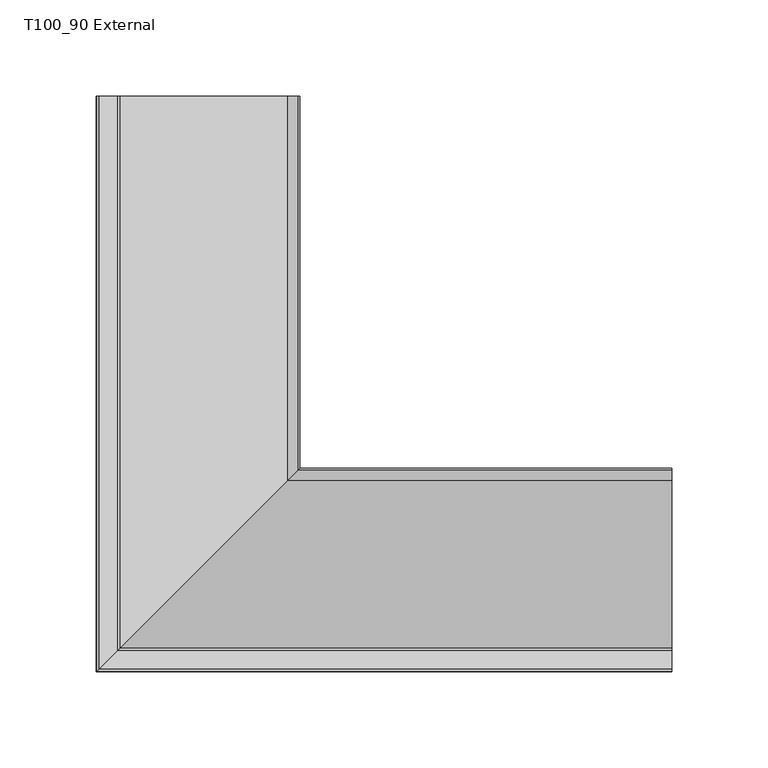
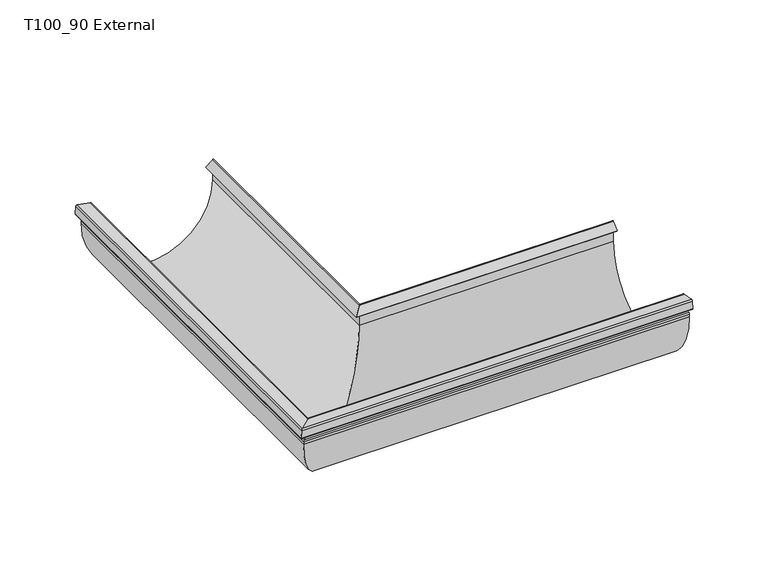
"""IFC4 building model written with IfcOpenShell, lengths in millimetres: proxy geometry, GROVIK_Gutter_Corner : T100_90 External."""

from ifc_helpers import new_model, si_unit, frame, origin, place, context, project, spatial, polyline, circle_curve, ellipse_curve, source, transform, mapped, element, save
from ifc_brep_helpers import plane_surface, cylinder_surface, revolved_surface, advanced_brep


def t100_90_external_0bfb932a(model_context):
    return source(origin(), model_context, "Body", "AdvancedBrep", [
        advanced_brep(
        [(-95.6785725, 193.8, -12.9222473), (-94.8220658, 193.8, -3.1323306), (-104.7816977, 193.8, -1.3761787), (-105.2998033, 193.8, -7.2981526), (-98.3413035, 193.8, -6.0711814), (-98.1850202, 193.8, -6.9575084), (-105.0151773, 193.8, -8.1618494), (-106.1850202, 193.8, -7.0898859), (-105.6885136, 193.8, -1.4147892), (-104.6051631, 193.8, -0.5057502), (-94.7570856, 193.8, -2.242232), (-93.9345391, 193.8, -3.3141955), (-94.7746841, 193.8, -12.9170968), (-95.683723, 193.8, -13.8261357), (-100.9, 193.8, -14.2825008), (-100.9, 193.8, -16.3578028), (-0.9, 193.8, -16.3578028), (-0.9, 193.8, -1.3578028), (-5.6494755, 193.8, -5.3430859), (-6.2279844, 193.8, -4.6536459), (-0.8213938, 193.8, -0.1169778), (0.0, 193.8, -0.5), (0.0, 193.8, -16.3578028), (-101.8, 193.8, -16.3578028), (-101.8, 193.8, -14.3741339), (-100.8871557, 193.8, -13.3779392), (-100.8871557, -100.8871557, -13.3779392), (-95.6785725, -95.6785725, -12.9222473), (-101.8, -101.8, -14.3741339), (-101.8, -101.8, -16.3578028), (0.0, 0.0, -16.3578028), (0.0, 0.0, -0.5), (-0.8213938, -0.8213938, -0.1169778), (-6.2279844, -6.2279844, -4.6536459), (-5.6494755, -5.6494755, -5.3430859), (-0.9, -0.9, -1.3578028), (-0.9, -0.9, -16.3578028), (-100.9, -100.9, -16.3578028), (-100.9, -100.9, -14.2825008), (-95.683723, -95.683723, -13.8261357), (-94.7746841, -94.7746841, -12.9170968), (-93.9345391, -93.9345391, -3.3141955), (-94.7570856, -94.7570856, -2.242232), (-104.6051631, -104.6051631, -0.5057502), (-105.6885136, -105.6885136, -1.4147892), (-106.1850202, -106.1850202, -7.0898859), (-105.0151773, -105.0151773, -8.1618494), (-98.1850202, -98.1850202, -6.9575084), (-98.3413035, -98.3413035, -6.0711814), (-105.2998033, -105.2998033, -7.2981526), (-104.7816977, -104.7816977, -1.3761787), (-94.8220658, -94.8220658, -3.1323306)],
        [
            (0, 1),
            (1, 2),
            (2, 3),
            (3, 4),
            (4, 5),
            (5, 6),
            (6, 7, circle_curve(frame((-105.1888255, 193.8, -7.1770416), z_axis=(0.0, 1.0, 0.0), x_axis=(1.0, 0.0, 0.0)), 1.0)),
            (7, 8),
            (8, 9, circle_curve(frame((-104.6923189, 193.8, -1.5019449), z_axis=(0.0, 1.0, 0.0), x_axis=(1.0, 0.0, 0.0)), 1.0)),
            (9, 10),
            (10, 11, circle_curve(frame((-94.9307338, 193.8, -3.2270397), z_axis=(0.0, 1.0, 0.0), x_axis=(1.0, 0.0, 0.0)), 1.0)),
            (11, 12),
            (12, 13, circle_curve(frame((-95.683723, 193.8, -12.9170968), z_axis=(0.0, 1.0, 0.0), x_axis=(1.0, 0.0, 0.0)), 0.909039)),
            (13, 14),
            (14, 15),
            (15, 16, circle_curve(frame((-50.9, 193.8, -16.3578028), z_axis=(0.0, -1.0, 0.0), x_axis=(1.0, 0.0, 0.0)), 50.0)),
            (16, 17),
            (17, 18),
            (18, 19),
            (19, 20),
            (20, 21, circle_curve(frame((-0.5, 193.8, -0.5), z_axis=(0.0, 1.0, 0.0), x_axis=(1.0, 0.0, 0.0)), 0.5)),
            (21, 22),
            (22, 23, circle_curve(frame((-50.9, 193.8, -16.3578028), z_axis=(0.0, 1.0, 0.0), x_axis=(1.0, 0.0, 0.0)), 50.9)),
            (23, 24),
            (24, 25, circle_curve(frame((-100.8, 193.8, -14.3741339), z_axis=(0.0, 1.0, 0.0), x_axis=(1.0, 0.0, 0.0)), 1.0)),
            (25, 0),
            (25, 26),
            (26, 27),
            (27, 0),
            (24, 28),
            (28, 26, ellipse_curve(frame((-100.8, -100.8, -14.3741339), z_axis=(-0.707106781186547, 0.7071067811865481, 0.0), x_axis=(0.7071067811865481, 0.7071067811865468, 0.0)), 1.4142136, 1.0)),
            (23, 29),
            (29, 28),
            (22, 30),
            (30, 29, ellipse_curve(frame((-50.9, -50.9, -16.3578028), z_axis=(-0.707106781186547, 0.7071067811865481, 0.0), x_axis=(0.7071067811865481, 0.7071067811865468, 0.0)), 71.9834703, 50.9)),
            (21, 31),
            (31, 30),
            (20, 32),
            (32, 31, ellipse_curve(frame((-0.5, -0.5, -0.5), z_axis=(-0.707106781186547, 0.7071067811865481, 0.0), x_axis=(0.7071067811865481, 0.7071067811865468, 0.0)), 0.7071068, 0.5)),
            (19, 33),
            (33, 32),
            (18, 34),
            (34, 33),
            (17, 35),
            (35, 34),
            (16, 36),
            (36, 35),
            (15, 37),
            (37, 36, ellipse_curve(frame((-50.9, -50.9, -16.3578028), z_axis=(0.707106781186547, -0.7071067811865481, 0.0), x_axis=(-0.7071067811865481, -0.7071067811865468, 0.0)), 70.7106781, 50.0)),
            (14, 38),
            (38, 37),
            (13, 39),
            (39, 38),
            (12, 40),
            (40, 39, ellipse_curve(frame((-95.683723, -95.683723, -12.9170968), z_axis=(-0.707106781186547, 0.7071067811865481, 0.0), x_axis=(0.7071067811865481, 0.7071067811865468, 0.0)), 1.2855752, 0.909039)),
            (11, 41),
            (41, 40),
            (10, 42),
            (42, 41, ellipse_curve(frame((-94.9307338, -94.9307338, -3.2270397), z_axis=(-0.707106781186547, 0.7071067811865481, 0.0), x_axis=(0.7071067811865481, 0.7071067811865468, 0.0)), 1.4142136, 1.0)),
            (9, 43),
            (43, 42),
            (8, 44),
            (44, 43, ellipse_curve(frame((-104.6923189, -104.6923189, -1.5019449), z_axis=(-0.707106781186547, 0.7071067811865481, 0.0), x_axis=(0.7071067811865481, 0.7071067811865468, 0.0)), 1.4142136, 1.0)),
            (7, 45),
            (45, 44),
            (6, 46),
            (46, 45, ellipse_curve(frame((-105.1888255, -105.1888255, -7.1770416), z_axis=(-0.707106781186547, 0.7071067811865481, 0.0), x_axis=(0.7071067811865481, 0.7071067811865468, 0.0)), 1.4142136, 1.0)),
            (5, 47),
            (47, 46),
            (4, 48),
            (48, 47),
            (3, 49),
            (49, 48),
            (2, 50),
            (50, 49),
            (1, 51),
            (51, 50),
            (27, 51),
        ],
        [
            plane_surface(frame((0.0, 193.8, 0.0), z_axis=(0.0, 1.0, 0.0), x_axis=(0.0, 0.0, 1.0))),
            plane_surface(frame((-95.6785725, 193.8, -12.9222473), z_axis=(-0.087155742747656, 0.0, 0.9961946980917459), x_axis=(0.0, -1.0, 0.0))),
            cylinder_surface(frame((-100.8, 193.8, -14.3741339), z_axis=(0.0, 1.0, 0.0), x_axis=(1.0, 0.0, 0.0)), 1.0),
            plane_surface(frame((-101.8, 193.8, -14.3741339), z_axis=(-1.0, 0.0, 0.0), x_axis=(0.0, -1.0, 0.0))),
            cylinder_surface(frame((-50.9, 193.8, -16.3578028), z_axis=(0.0, 1.0, 0.0), x_axis=(1.0, 0.0, 0.0)), 50.9),
            plane_surface(frame((0.0, 193.8, -16.3578028), z_axis=(1.0, 0.0, 0.0), x_axis=(0.0, -1.0, 0.0))),
            cylinder_surface(frame((-0.5, 193.8, -0.5), z_axis=(0.0, 1.0, 0.0), x_axis=(1.0, 0.0, 0.0)), 0.5),
            plane_surface(frame((-0.8213938, 193.8, -0.1169778), z_axis=(-0.6427876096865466, 0.0, 0.7660444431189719), x_axis=(0.0, -1.0, 0.0))),
            plane_surface(frame((-6.2279844, 193.8, -4.6536459), z_axis=(-0.7660444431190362, 0.0, -0.6427876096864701), x_axis=(0.0, -1.0, 0.0))),
            plane_surface(frame((-5.6494755, 193.8, -5.3430859), z_axis=(0.6427876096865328, 0.0, -0.7660444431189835), x_axis=(0.0, -1.0, 0.0))),
            plane_surface(frame((-0.9, 193.8, -1.3578028), z_axis=(-1.0, 0.0, 0.0), x_axis=(0.0, -1.0, 0.0))),
            revolved_surface(polyline([(-0.8999999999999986, -100.90000000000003, -16.3578028), (-0.8999999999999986, 193.8, -16.3578028)]), (-50.9, 193.8, -16.3578028), (0.0, -1.0, 0.0)),
            plane_surface(frame((-100.9, 193.8, -16.3578028), z_axis=(1.0, 0.0, 0.0), x_axis=(0.0, -1.0, 0.0))),
            plane_surface(frame((-100.9, 193.8, -14.2825008), z_axis=(0.08715574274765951, 0.0, -0.9961946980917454), x_axis=(0.0, -1.0, 0.0))),
            cylinder_surface(frame((-95.683723, 193.8, -12.9170968), z_axis=(0.0, 1.0, 0.0), x_axis=(1.0, 0.0, 0.0)), 0.909039),
            plane_surface(frame((-94.7746841, 193.8, -12.9170968), z_axis=(0.9961946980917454, 0.0, -0.08715574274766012), x_axis=(0.0, -1.0, 0.0))),
            cylinder_surface(frame((-94.9307338, 193.8, -3.2270397), z_axis=(0.0, 1.0, 0.0), x_axis=(1.0, 0.0, 0.0)), 1.0),
            plane_surface(frame((-94.7570856, 193.8, -2.242232), z_axis=(0.17364817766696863, 0.0, 0.9848077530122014), x_axis=(0.0, -1.0, 0.0))),
            cylinder_surface(frame((-104.6923189, 193.8, -1.5019449), z_axis=(0.0, 1.0, 0.0), x_axis=(1.0, 0.0, 0.0)), 1.0),
            plane_surface(frame((-105.6885136, 193.8, -1.4147892), z_axis=(-0.9961946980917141, 0.0, 0.08715574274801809), x_axis=(0.0, -1.0, 0.0))),
            cylinder_surface(frame((-105.1888255, 193.8, -7.1770416), z_axis=(0.0, 1.0, 0.0), x_axis=(1.0, 0.0, 0.0)), 1.0),
            plane_surface(frame((-105.0151773, 193.8, -8.1618494), z_axis=(0.17364817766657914, 0.0, -0.9848077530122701), x_axis=(0.0, -1.0, 0.0))),
            plane_surface(frame((-98.1850202, 193.8, -6.9575084), z_axis=(0.9848077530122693, 0.0, 0.17364817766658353), x_axis=(0.0, -1.0, 0.0))),
            plane_surface(frame((-98.3413035, 193.8, -6.0711814), z_axis=(-0.17364817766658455, 0.0, 0.9848077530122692), x_axis=(0.0, -1.0, 0.0))),
            plane_surface(frame((-105.2998033, 193.8, -7.2981526), z_axis=(0.9961946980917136, 0.0, -0.0871557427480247), x_axis=(0.0, -1.0, 0.0))),
            plane_surface(frame((-104.7816977, 193.8, -1.3761787), z_axis=(-0.17364817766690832, 0.0, -0.984807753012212), x_axis=(0.0, -1.0, 0.0))),
            plane_surface(frame((-94.8220658, 193.8, -3.1323306), z_axis=(-0.996194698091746, 0.0, 0.08715574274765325), x_axis=(0.0, -1.0, 0.0))),
            plane_surface(frame((-200.0, -200.0, 250.0), z_axis=(0.707106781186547, -0.7071067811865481, 0.0), x_axis=(0.0, 0.0, -1.0))),
        ],
        [
            (0, [[1, 2, 3, 4, 5, 6, 7, 8, 9, 10, 11, 12, 13, 14, 15, 16, 17, 18, 19, 20, 21, 22, 23, 24, 25, 26]]),
            (1, [[27, 28, 29, -26]]),
            (2, [[30, 31, -27, -25]]),
            (3, [[32, 33, -30, -24]]),
            (4, [[34, 35, -32, -23]]),
            (5, [[36, 37, -34, -22]]),
            (6, [[38, 39, -36, -21]]),
            (7, [[40, 41, -38, -20]]),
            (8, [[42, 43, -40, -19]]),
            (9, [[44, 45, -42, -18]]),
            (10, [[46, 47, -44, -17]]),
            (11, [[48, 49, -46, -16]]),
            (12, [[50, 51, -48, -15]]),
            (13, [[52, 53, -50, -14]]),
            (14, [[54, 55, -52, -13]]),
            (15, [[56, 57, -54, -12]]),
            (16, [[58, 59, -56, -11]]),
            (17, [[60, 61, -58, -10]]),
            (18, [[62, 63, -60, -9]]),
            (19, [[64, 65, -62, -8]]),
            (20, [[66, 67, -64, -7]]),
            (21, [[68, 69, -66, -6]]),
            (22, [[70, 71, -68, -5]]),
            (23, [[72, 73, -70, -4]]),
            (24, [[74, 75, -72, -3]]),
            (25, [[76, 77, -74, -2]]),
            (26, [[-29, 78, -76, -1]]),
            (27, [[-31, -33, -35, -37, -39, -41, -43, -45, -47, -49, -51, -53, -55, -57, -59, -61, -63, -65, -67, -69, -71, -73, -75, -77, -78, -28]]),
        ],
    ),
        advanced_brep(
        [(193.8, -95.6785725, -12.9222473), (193.8, -100.8871557, -13.3779392), (193.8, -101.8, -14.3741339), (193.8, -101.8, -16.3578028), (193.8, 0.0, -16.3578028), (193.8, 0.0, -0.5), (193.8, -0.8213938, -0.1169778), (193.8, -6.2279844, -4.6536459), (193.8, -5.6494755, -5.3430859), (193.8, -0.9, -1.3578028), (193.8, -0.9, -16.3578028), (193.8, -100.9, -16.3578028), (193.8, -100.9, -14.2825008), (193.8, -95.683723, -13.8261357), (193.8, -94.7746841, -12.9170968), (193.8, -93.9345391, -3.3141955), (193.8, -94.7570856, -2.242232), (193.8, -104.6051631, -0.5057502), (193.8, -105.6885136, -1.4147892), (193.8, -106.1850202, -7.0898859), (193.8, -105.0151773, -8.1618494), (193.8, -98.1850202, -6.9575084), (193.8, -98.3413035, -6.0711814), (193.8, -105.2998033, -7.2981526), (193.8, -104.7816977, -1.3761787), (193.8, -94.8220658, -3.1323306), (-95.6785725, -95.6785725, -12.9222473), (-100.8871557, -100.8871557, -13.3779392), (-101.8, -101.8, -14.3741339), (-101.8, -101.8, -16.3578028), (0.0, 0.0, -16.3578028), (0.0, 0.0, -0.5), (-0.8213938, -0.8213938, -0.1169778), (-6.2279844, -6.2279844, -4.6536459), (-5.6494755, -5.6494755, -5.3430859), (-0.9, -0.9, -1.3578028), (-0.9, -0.9, -16.3578028), (-100.9, -100.9, -16.3578028), (-100.9, -100.9, -14.2825008), (-95.683723, -95.683723, -13.8261357), (-94.7746841, -94.7746841, -12.9170968), (-93.9345391, -93.9345391, -3.3141955), (-94.7570856, -94.7570856, -2.242232), (-104.6051631, -104.6051631, -0.5057502), (-105.6885136, -105.6885136, -1.4147892), (-106.1850202, -106.1850202, -7.0898859), (-105.0151773, -105.0151773, -8.1618494), (-98.1850202, -98.1850202, -6.9575084), (-98.3413035, -98.3413035, -6.0711814), (-105.2998033, -105.2998033, -7.2981526), (-104.7816977, -104.7816977, -1.3761787), (-94.8220658, -94.8220658, -3.1323306)],
        [
            (0, 1),
            (1, 2, circle_curve(frame((193.8, -100.8, -14.3741339), z_axis=(1.0, 0.0, 0.0), x_axis=(0.0, 1.0, 0.0)), 1.0)),
            (2, 3),
            (3, 4, circle_curve(frame((193.8, -50.9, -16.3578028), z_axis=(1.0, 0.0, 0.0), x_axis=(0.0, 1.0, 0.0)), 50.9)),
            (4, 5),
            (5, 6, circle_curve(frame((193.8, -0.5, -0.5), z_axis=(1.0, 0.0, 0.0), x_axis=(0.0, 1.0, 0.0)), 0.5)),
            (6, 7),
            (7, 8),
            (8, 9),
            (9, 10),
            (10, 11, circle_curve(frame((193.8, -50.9, -16.3578028), z_axis=(-1.0, 0.0, 0.0), x_axis=(0.0, 1.0, 0.0)), 50.0)),
            (11, 12),
            (12, 13),
            (13, 14, circle_curve(frame((193.8, -95.683723, -12.9170968), z_axis=(1.0, 0.0, 0.0), x_axis=(0.0, 1.0, 0.0)), 0.909039)),
            (14, 15),
            (15, 16, circle_curve(frame((193.8, -94.9307338, -3.2270397), z_axis=(1.0, 0.0, 0.0), x_axis=(0.0, 1.0, 0.0)), 1.0)),
            (16, 17),
            (17, 18, circle_curve(frame((193.8, -104.6923189, -1.5019449), z_axis=(1.0, 0.0, 0.0), x_axis=(0.0, 1.0, 0.0)), 1.0)),
            (18, 19),
            (19, 20, circle_curve(frame((193.8, -105.1888255, -7.1770416), z_axis=(1.0, 0.0, 0.0), x_axis=(0.0, 1.0, 0.0)), 1.0)),
            (20, 21),
            (21, 22),
            (22, 23),
            (23, 24),
            (24, 25),
            (25, 0),
            (0, 26),
            (26, 27),
            (27, 1),
            (27, 28, ellipse_curve(frame((-100.8, -100.8, -14.3741339), z_axis=(0.707106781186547, -0.7071067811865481, 0.0), x_axis=(0.7071067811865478, 0.707106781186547, 0.0)), 1.4142136, 1.0)),
            (28, 2),
            (28, 29),
            (29, 3),
            (29, 30, ellipse_curve(frame((-50.9, -50.9, -16.3578028), z_axis=(0.707106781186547, -0.7071067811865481, 0.0), x_axis=(0.7071067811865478, 0.707106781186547, 0.0)), 71.9834703, 50.9)),
            (30, 4),
            (30, 31),
            (31, 5),
            (31, 32, ellipse_curve(frame((-0.5, -0.5, -0.5), z_axis=(0.707106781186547, -0.7071067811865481, 0.0), x_axis=(0.7071067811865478, 0.707106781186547, 0.0)), 0.7071068, 0.5)),
            (32, 6),
            (32, 33),
            (33, 7),
            (33, 34),
            (34, 8),
            (34, 35),
            (35, 9),
            (35, 36),
            (36, 10),
            (36, 37, ellipse_curve(frame((-50.9, -50.9, -16.3578028), z_axis=(-0.707106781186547, 0.7071067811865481, 0.0), x_axis=(-0.7071067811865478, -0.707106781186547, 0.0)), 70.7106781, 50.0)),
            (37, 11),
            (37, 38),
            (38, 12),
            (38, 39),
            (39, 13),
            (39, 40, ellipse_curve(frame((-95.683723, -95.683723, -12.9170968), z_axis=(0.707106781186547, -0.7071067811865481, 0.0), x_axis=(0.7071067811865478, 0.707106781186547, 0.0)), 1.2855752, 0.909039)),
            (40, 14),
            (40, 41),
            (41, 15),
            (41, 42, ellipse_curve(frame((-94.9307338, -94.9307338, -3.2270397), z_axis=(0.707106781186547, -0.7071067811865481, 0.0), x_axis=(0.7071067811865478, 0.707106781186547, 0.0)), 1.4142136, 1.0)),
            (42, 16),
            (42, 43),
            (43, 17),
            (43, 44, ellipse_curve(frame((-104.6923189, -104.6923189, -1.5019449), z_axis=(0.707106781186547, -0.7071067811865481, 0.0), x_axis=(0.7071067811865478, 0.707106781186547, 0.0)), 1.4142136, 1.0)),
            (44, 18),
            (44, 45),
            (45, 19),
            (45, 46, ellipse_curve(frame((-105.1888255, -105.1888255, -7.1770416), z_axis=(0.707106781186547, -0.7071067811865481, 0.0), x_axis=(0.7071067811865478, 0.707106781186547, 0.0)), 1.4142136, 1.0)),
            (46, 20),
            (46, 47),
            (47, 21),
            (47, 48),
            (48, 22),
            (48, 49),
            (49, 23),
            (49, 50),
            (50, 24),
            (50, 51),
            (51, 25),
            (51, 26),
        ],
        [
            plane_surface(frame((193.8, 0.0, 0.0), z_axis=(1.0, 0.0, 0.0), x_axis=(0.0, 0.0, 1.0))),
            plane_surface(frame((193.8, -95.6785725, -12.9222473), z_axis=(0.0, -0.087155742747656, 0.9961946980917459), x_axis=(-1.0, 0.0, 0.0))),
            cylinder_surface(frame((193.8, -100.8, -14.3741339), z_axis=(1.0, 0.0, 0.0), x_axis=(0.0, 1.0, 0.0)), 1.0),
            plane_surface(frame((193.8, -101.8, -14.3741339), z_axis=(0.0, -1.0, 0.0), x_axis=(-1.0, 0.0, 0.0))),
            cylinder_surface(frame((193.8, -50.9, -16.3578028), z_axis=(1.0, 0.0, 0.0), x_axis=(0.0, 1.0, 0.0)), 50.9),
            plane_surface(frame((193.8, 0.0, -16.3578028), z_axis=(0.0, 1.0, 0.0), x_axis=(-1.0, 0.0, 0.0))),
            cylinder_surface(frame((193.8, -0.5, -0.5), z_axis=(1.0, 0.0, 0.0), x_axis=(0.0, 1.0, 0.0)), 0.5),
            plane_surface(frame((193.8, -0.8213938, -0.1169778), z_axis=(0.0, -0.6427876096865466, 0.7660444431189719), x_axis=(-1.0, 0.0, 0.0))),
            plane_surface(frame((193.8, -6.2279844, -4.6536459), z_axis=(0.0, -0.7660444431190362, -0.6427876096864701), x_axis=(-1.0, 0.0, 0.0))),
            plane_surface(frame((193.8, -5.6494755, -5.3430859), z_axis=(0.0, 0.6427876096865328, -0.7660444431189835), x_axis=(-1.0, 0.0, 0.0))),
            plane_surface(frame((193.8, -0.9, -1.3578028), z_axis=(0.0, -1.0, 0.0), x_axis=(-1.0, 0.0, 0.0))),
            revolved_surface(polyline([(-100.90000000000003, -0.8999999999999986, -16.3578028), (193.8, -0.8999999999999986, -16.3578028)]), (193.8, -50.9, -16.3578028), (-1.0, 0.0, 0.0)),
            plane_surface(frame((193.8, -100.9, -16.3578028), z_axis=(0.0, 1.0, 0.0), x_axis=(-1.0, 0.0, 0.0))),
            plane_surface(frame((193.8, -100.9, -14.2825008), z_axis=(0.0, 0.08715574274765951, -0.9961946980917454), x_axis=(-1.0, 0.0, 0.0))),
            cylinder_surface(frame((193.8, -95.683723, -12.9170968), z_axis=(1.0, 0.0, 0.0), x_axis=(0.0, 1.0, 0.0)), 0.909039),
            plane_surface(frame((193.8, -94.7746841, -12.9170968), z_axis=(0.0, 0.9961946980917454, -0.08715574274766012), x_axis=(-1.0, 0.0, 0.0))),
            cylinder_surface(frame((193.8, -94.9307338, -3.2270397), z_axis=(1.0, 0.0, 0.0), x_axis=(0.0, 1.0, 0.0)), 1.0),
            plane_surface(frame((193.8, -94.7570856, -2.242232), z_axis=(0.0, 0.17364817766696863, 0.9848077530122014), x_axis=(-1.0, 0.0, 0.0))),
            cylinder_surface(frame((193.8, -104.6923189, -1.5019449), z_axis=(1.0, 0.0, 0.0), x_axis=(0.0, 1.0, 0.0)), 1.0),
            plane_surface(frame((193.8, -105.6885136, -1.4147892), z_axis=(0.0, -0.9961946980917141, 0.08715574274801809), x_axis=(-1.0, 0.0, 0.0))),
            cylinder_surface(frame((193.8, -105.1888255, -7.1770416), z_axis=(1.0, 0.0, 0.0), x_axis=(0.0, 1.0, 0.0)), 1.0),
            plane_surface(frame((193.8, -105.0151773, -8.1618494), z_axis=(0.0, 0.17364817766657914, -0.9848077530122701), x_axis=(-1.0, 0.0, 0.0))),
            plane_surface(frame((193.8, -98.1850202, -6.9575084), z_axis=(0.0, 0.9848077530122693, 0.17364817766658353), x_axis=(-1.0, 0.0, 0.0))),
            plane_surface(frame((193.8, -98.3413035, -6.0711814), z_axis=(0.0, -0.17364817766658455, 0.9848077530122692), x_axis=(-1.0, 0.0, 0.0))),
            plane_surface(frame((193.8, -105.2998033, -7.2981526), z_axis=(0.0, 0.9961946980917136, -0.0871557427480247), x_axis=(-1.0, 0.0, 0.0))),
            plane_surface(frame((193.8, -104.7816977, -1.3761787), z_axis=(0.0, -0.17364817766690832, -0.984807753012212), x_axis=(-1.0, 0.0, 0.0))),
            plane_surface(frame((193.8, -94.8220658, -3.1323306), z_axis=(0.0, -0.996194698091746, 0.08715574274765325), x_axis=(-1.0, 0.0, 0.0))),
            plane_surface(frame((-200.0, -200.0, 250.0), z_axis=(-0.707106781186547, 0.7071067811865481, 0.0), x_axis=(0.0, 0.0, -1.0))),
        ],
        [
            (0, [[1, 2, 3, 4, 5, 6, 7, 8, 9, 10, 11, 12, 13, 14, 15, 16, 17, 18, 19, 20, 21, 22, 23, 24, 25, 26]]),
            (1, [[-1, 27, 28, 29]]),
            (2, [[-2, -29, 30, 31]]),
            (3, [[-3, -31, 32, 33]]),
            (4, [[-4, -33, 34, 35]]),
            (5, [[-5, -35, 36, 37]]),
            (6, [[-6, -37, 38, 39]]),
            (7, [[-7, -39, 40, 41]]),
            (8, [[-8, -41, 42, 43]]),
            (9, [[-9, -43, 44, 45]]),
            (10, [[-10, -45, 46, 47]]),
            (11, [[-11, -47, 48, 49]]),
            (12, [[-12, -49, 50, 51]]),
            (13, [[-13, -51, 52, 53]]),
            (14, [[-14, -53, 54, 55]]),
            (15, [[-15, -55, 56, 57]]),
            (16, [[-16, -57, 58, 59]]),
            (17, [[-17, -59, 60, 61]]),
            (18, [[-18, -61, 62, 63]]),
            (19, [[-19, -63, 64, 65]]),
            (20, [[-20, -65, 66, 67]]),
            (21, [[-21, -67, 68, 69]]),
            (22, [[-22, -69, 70, 71]]),
            (23, [[-23, -71, 72, 73]]),
            (24, [[-24, -73, 74, 75]]),
            (25, [[-25, -75, 76, 77]]),
            (26, [[-26, -77, 78, -27]]),
            (27, [[-28, -78, -76, -74, -72, -70, -68, -66, -64, -62, -60, -58, -56, -54, -52, -50, -48, -46, -44, -42, -40, -38, -36, -34, -32, -30]]),
        ],
    ),
    ])


if __name__ == "__main__":
    model = new_model("IFC4")
    model_context = context("Model", 3, world=origin())
    ifc_project = project(units=[si_unit("LENGTHUNIT", "METRE", prefix="MILLI")], contexts=[model_context])
    site = spatial("IfcSite", under=ifc_project)
    building = spatial("IfcBuilding", under=site)
    placement = place(None, origin())
    t100_90_external_shape = t100_90_external_0bfb932a(model_context)
    element("IfcBuildingElementProxy", 1, Name="GROVIK_Gutter_Corner : T100_90 External", ObjectType="GROVIK_Gutter_Corner : T100_90 External", at=placement, inside=building, context=model_context, shape_type="MappedRepresentation", body=[
        mapped(t100_90_external_shape, transform((0.0, 0.0, 0.0), x_axis=(1.0, 0.0, 0.0), y_axis=(0.0, 1.0, 0.0), z_axis=(0.0, 0.0, 1.0))),
    ])
    save(model, "model.ifc")
